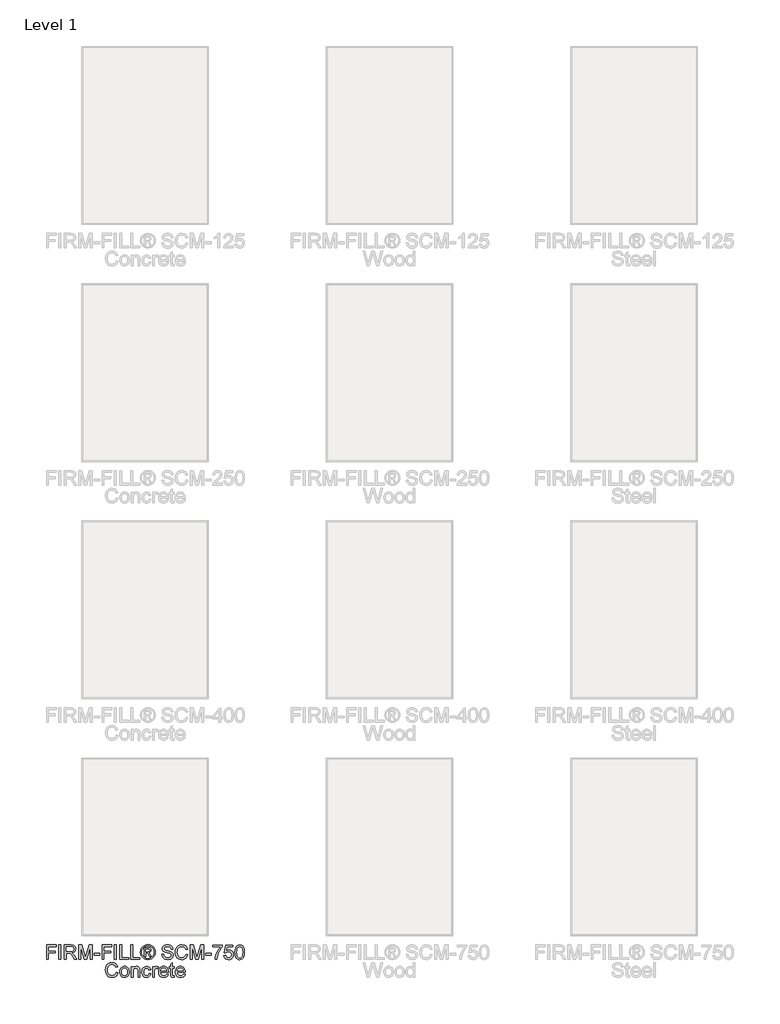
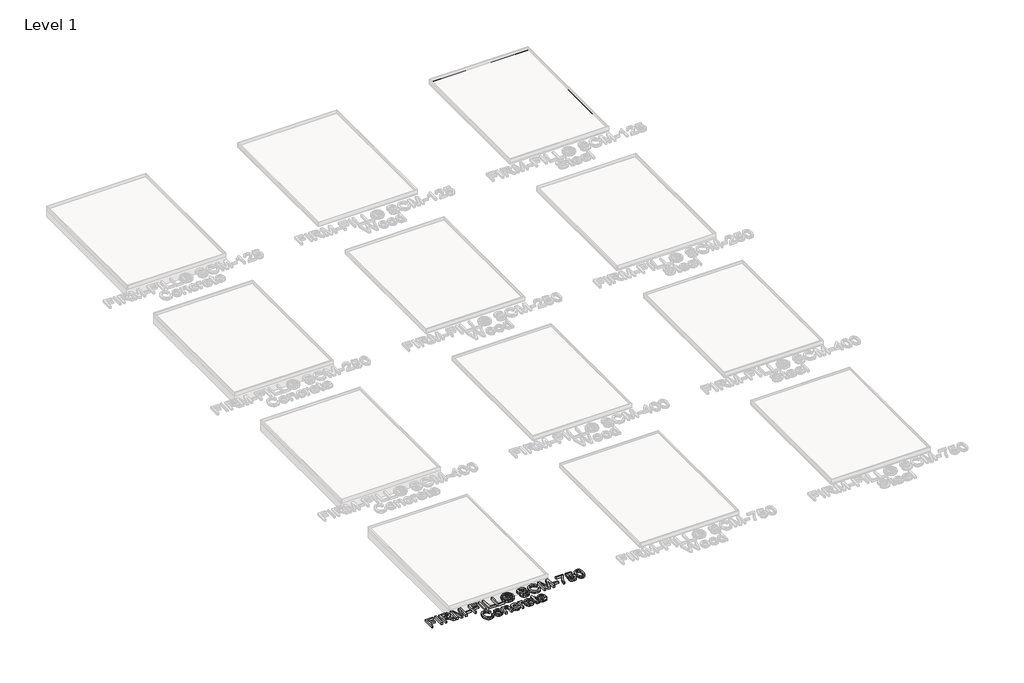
# One storey, part 3 of 10: 1 proxy, 1 slab.
"""IFC4 building model written with IfcOpenShell, lengths in millimetres."""

from ifc_helpers import new_model, si_unit, frame, origin, origin_with_axes, place, context, project, spatial, polyline, outline, extrude, element, save

model = new_model("IFC4")

# Units and contexts
model_context = context("Model", 3, world=origin())
ifc_project = project(units=[si_unit("LENGTHUNIT", "METRE", prefix="MILLI")], contexts=[model_context])

# Site, building, storey
site = spatial("IfcSite", under=ifc_project)
building = spatial("IfcBuilding", under=site)
storey = spatial("IfcBuildingStorey", under=building, Name="Level 1", Elevation=0.0)

# Proxy
placement = place(None, origin())
element("IfcBuildingElementProxy", 1, Name="600mm Arial", ObjectType="600mm Arial", at=placement, inside=storey, context=model_context, shape_type="SweptSolid", body=[
    extrude(outline(polyline([(-5392.4048462, -19301.1364307), (-5392.4048462, -19001.0256615), (-5190.7679231, -19001.0256615), (-5190.7679231, -19038.5395076), (-5354.891, -19038.5395076), (-5354.891, -19127.6348922), (-5214.2140769, -19127.6348922), (-5214.2140769, -19165.1487384), (-5354.891, -19165.1487384), (-5354.891, -19301.1364307), (-5392.4048462, -19301.1364307)])), origin_with_axes(), (0.0, 0.0, 1.0), 50.8),
    extrude(outline(polyline([(-5134.4971539, -19301.1364307), (-5134.4971539, -19001.0256615), (-5096.9833077, -19001.0256615), (-5096.9833077, -19301.1364307), (-5134.4971539, -19301.1364307)])), origin_with_axes(), (0.0, 0.0, 1.0), 50.8),
    extrude(outline(polyline([(-5021.9556154, -19301.1364307), (-5021.9556154, -19001.0256615), (-4892.6354231, -19001.0256615), (-4857.8783318, -19003.049724), (-4832.5912885, -19009.1219115), (-4814.109125, -19020.3321038), (-4799.7666731, -19037.7701807), (-4790.562226, -19059.3937624), (-4787.4940769, -19083.1604692), (-4792.5771298, -19112.7246038), (-4807.8262885, -19137.2331615), (-4819.3776406, -19147.2206735), (-4833.6994856, -19155.2024403), (-4870.6546539, -19165.1487384), (-4849.3333077, -19181.1946999), (-4818.9265769, -19219.8075846), (-4768.8836923, -19301.1364307), (-4812.4788846, -19301.1364307), (-4851.5313846, -19238.9308538), (-4879.7400385, -19197.7535461), (-4899.5593654, -19178.3005653), (-4917.4004231, -19171.1568153), (-4939.1613846, -19169.8379692), (-4984.4417693, -19169.8379692), (-4984.4417693, -19301.1364307), (-5021.9556154, -19301.1364307)]), holes=[polyline([(-4984.4417693, -19132.324123), (-4900.4752308, -19132.324123), (-4876.3604952, -19130.9961182), (-4857.6493654, -19127.0121038), (-4843.5633558, -19120.1064788), (-4833.3239808, -19110.0136422), (-4827.0869375, -19097.8051567), (-4825.0079231, -19084.5525846), (-4828.9736202, -19066.2535942), (-4840.8707116, -19051.5081615), (-4861.3403029, -19041.7816711), (-4891.0235, -19038.5395076), (-4984.4417693, -19038.5395076), (-4984.4417693, -19132.324123)])]), origin_with_axes(), (0.0, 0.0, 1.0), 50.8),
    extrude(outline(polyline([(-4721.8448462, -19301.1364307), (-4721.8448462, -19001.0256615), (-4657.2946539, -19001.0256615), (-4595.8950385, -19212.5539307), (-4583.5125385, -19256.7352769), (-4570.1042693, -19208.8904692), (-4509.7304231, -19001.0256615), (-4445.1802308, -19001.0256615), (-4445.1802308, -19301.1364307), (-4482.6940769, -19301.1364307), (-4482.6940769, -19038.5395076), (-4558.0881154, -19301.1364307), (-4608.9369616, -19301.1364307), (-4684.331, -19038.5395076), (-4684.331, -19301.1364307), (-4721.8448462, -19301.1364307)])), origin_with_axes(), (0.0, 0.0, 1.0), 50.8),
    extrude(outline(polyline([(-4402.9771539, -19212.0410461), (-4402.9771539, -19174.5271999), (-4285.7463846, -19174.5271999), (-4285.7463846, -19212.0410461), (-4402.9771539, -19212.0410461)])), origin_with_axes(), (0.0, 0.0, 1.0), 50.8),
    extrude(outline(polyline([(-4238.8540769, -19301.1364307), (-4238.8540769, -19001.0256615), (-4037.2171539, -19001.0256615), (-4037.2171539, -19038.5395076), (-4201.3402308, -19038.5395076), (-4201.3402308, -19127.6348922), (-4060.6633077, -19127.6348922), (-4060.6633077, -19165.1487384), (-4201.3402308, -19165.1487384), (-4201.3402308, -19301.1364307), (-4238.8540769, -19301.1364307)])), origin_with_axes(), (0.0, 0.0, 1.0), 50.8),
    extrude(outline(polyline([(-3980.9463846, -19301.1364307), (-3980.9463846, -19001.0256615), (-3943.4325385, -19001.0256615), (-3943.4325385, -19301.1364307), (-3980.9463846, -19301.1364307)])), origin_with_axes(), (0.0, 0.0, 1.0), 50.8),
    extrude(outline(polyline([(-3868.4048462, -19301.1364307), (-3868.4048462, -19001.0256615), (-3830.891, -19001.0256615), (-3830.891, -19263.6225846), (-3680.8356154, -19263.6225846), (-3680.8356154, -19301.1364307), (-3868.4048462, -19301.1364307)])), origin_with_axes(), (0.0, 0.0, 1.0), 50.8),
    extrude(outline(polyline([(-3638.6325385, -19301.1364307), (-3638.6325385, -19001.0256615), (-3601.1186923, -19001.0256615), (-3601.1186923, -19263.6225846), (-3451.0633077, -19263.6225846), (-3451.0633077, -19301.1364307), (-3638.6325385, -19301.1364307)])), origin_with_axes(), (0.0, 0.0, 1.0), 50.8),
    extrude(outline(polyline([(-3357.2786923, -19244.8656615), (-3357.2786923, -19057.2964307), (-3296.6850385, -19057.2964307), (-3269.9051346, -19058.5878009), (-3251.6977308, -19062.4619115), (-3239.1961683, -19069.5507096), (-3229.5337885, -19080.4861422), (-3223.3516971, -19093.7570317), (-3221.291, -19107.8521999), (-3224.8445577, -19126.9754692), (-3235.5052308, -19143.4610461), (-3252.0274423, -19155.2940269), (-3273.1656154, -19160.4595076), (-3258.5117693, -19170.424123), (-3232.9408077, -19207.8646999), (-3211.9125385, -19244.8656615), (-3243.5648462, -19244.8656615), (-3260.0504231, -19215.1183538), (-3287.6729231, -19172.0360461), (-3297.7657596, -19166.614123), (-3311.6319616, -19165.1487384), (-3329.1433077, -19165.1487384), (-3329.1433077, -19244.8656615), (-3357.2786923, -19244.8656615)]), holes=[polyline([(-3329.1433077, -19137.0133538), (-3293.5344616, -19137.0133538), (-3272.0848943, -19135.2274163), (-3258.7315769, -19129.8696038), (-3251.7526827, -19121.5627047), (-3249.4263846, -19110.9295076), (-3253.8958077, -19097.3014307), (-3266.3149423, -19088.3625846), (-3295.8058077, -19085.4318153), (-3329.1433077, -19085.4318153), (-3329.1433077, -19137.0133538)])]), origin_with_axes(), (0.0, 0.0, 1.0), 50.8),
    extrude(outline(polyline([(-3286.8669616, -18996.3364307), (-3248.3456635, -19001.3370557), (-3210.7402308, -19016.3389307), (-3177.7049664, -19040.645998), (-3152.8941731, -19073.5621999), (-3137.3702548, -19111.5706134), (-3132.1956154, -19151.1543153), (-3137.2969856, -19190.3899884), (-3152.6010962, -19228.0870076), (-3177.1096539, -19260.8841471), (-3209.8243654, -19285.4201807), (-3247.4939087, -19300.7242913), (-3286.8669616, -19305.8256615), (-3326.1850625, -19300.7242913), (-3363.8362885, -19285.4201807), (-3396.578476, -19260.8841471), (-3421.1694616, -19228.0870076), (-3436.556, -19190.3899884), (-3441.6848462, -19151.1543153), (-3436.4827308, -19111.5706134), (-3420.8763846, -19073.5621999), (-3395.9831635, -19040.645998), (-3362.9204231, -19016.3389307), (-3325.3333077, -19001.3370557), (-3286.8669616, -18996.3364307)]), holes=[polyline([(-3286.8669616, -19024.4718153), (-3318.3910481, -19028.5657336), (-3349.0725385, -19040.8474884), (-3376.0447741, -19060.7492432), (-3396.4410962, -19087.7031615), (-3409.2723702, -19118.8059499), (-3413.5494616, -19151.1543153), (-3409.3547981, -19183.2920317), (-3396.7708077, -19214.0559499), (-3376.6400866, -19240.8083778), (-3349.8052308, -19260.911623), (-3318.9772019, -19273.4956134), (-3286.8669616, -19277.6902769), (-3254.7109279, -19273.4956134), (-3223.8920577, -19260.911623), (-3197.1029952, -19240.8083778), (-3177.0363846, -19214.0559499), (-3164.5073462, -19183.2920317), (-3160.331, -19151.1543153), (-3164.5806154, -19118.8059499), (-3177.3294616, -19087.7031615), (-3197.6708318, -19060.7492432), (-3224.6980193, -19040.8474884), (-3255.4253029, -19028.5657336), (-3286.8669616, -19024.4718153)])]), origin_with_axes(), (0.0, 0.0, 1.0), 50.8),
    extrude(outline(polyline([(-2996.2079231, -19197.9733538), (-2958.6940769, -19197.9733538), (-2954.3895096, -19218.790974), (-2946.6046539, -19235.5238346), (-2934.4602789, -19248.8038826), (-2917.0771539, -19259.2630653), (-2895.8290769, -19266.0496278), (-2872.0898462, -19268.3118153), (-2851.1897981, -19266.5991471), (-2832.8908077, -19261.4611422), (-2818.0629471, -19253.3282576), (-2807.5762885, -19242.6309499), (-2801.3392452, -19230.3491951), (-2799.2602308, -19217.4629692), (-2800.8172019, -19204.9064547), (-2805.4881154, -19194.0534499), (-2814.9764808, -19184.7940509), (-2830.9858077, -19177.0183538), (-2885.6080193, -19162.6942192), (-2921.4641491, -19153.2150124), (-2944.4065769, -19144.1937384), (-2963.0810721, -19131.5731134), (-2976.3153269, -19116.2781615), (-2984.2009279, -19098.6385942), (-2986.8294616, -19078.984123), (-2983.5781394, -19057.0125124), (-2973.8241731, -19036.5246038), (-2957.8240048, -19019.1597961), (-2935.8340769, -19006.5574884), (-2909.4388366, -18998.8916951), (-2880.2227308, -18996.3364307), (-2848.5704231, -18999.0107576), (-2820.8746539, -19007.0337384), (-2798.1245577, -19020.2405172), (-2781.3092693, -19038.4662384), (-2770.6669135, -19060.5752288), (-2766.4356154, -19085.4318153), (-2803.9494616, -19085.4318153), (-2810.8367693, -19063.0480653), (-2825.1975385, -19046.8921999), (-2847.6362404, -19037.1107576), (-2878.7573462, -19033.8502769), (-2910.6111443, -19037.074123), (-2932.4636923, -19046.7456615), (-2945.1026346, -19060.9782096), (-2949.3156154, -19077.8850846), (-2946.3298943, -19092.3008057), (-2937.3727308, -19103.8956615), (-2916.1979231, -19114.2632576), (-2876.1196539, -19124.8506615), (-2834.7591731, -19134.9068634), (-2809.7377308, -19143.6808538), (-2788.3522741, -19157.2906134), (-2773.4328269, -19174.0875846), (-2764.6679952, -19193.8885942), (-2761.7463846, -19216.5104692), (-2765.1076106, -19239.6360701), (-2775.1912885, -19261.387873), (-2791.5852789, -19280.1081615), (-2813.8774423, -19294.1392192), (-2840.6848221, -19302.9040509), (-2870.6244616, -19305.8256615), (-2907.3781394, -19302.6750846), (-2937.6291731, -19293.2233538), (-2961.7255914, -19277.4338346), (-2980.0154231, -19255.2698922), (-2991.7568173, -19228.2701807), (-2996.2079231, -19197.9733538)])), origin_with_axes(), (0.0, 0.0, 1.0), 50.8),
    extrude(outline(polyline([(-2494.4602308, -19194.4564307), (-2456.9463846, -19204.1279692), (-2464.3694736, -19227.4573502), (-2474.2562404, -19247.842224), (-2486.6066851, -19265.2825906), (-2501.4208077, -19279.7784499), (-2518.3643173, -19291.174105), (-2537.1029231, -19299.3138586), (-2557.636625, -19304.1977108), (-2579.9654231, -19305.8256615), (-2623.4781875, -19300.8983057), (-2658.0337885, -19286.1162384), (-2684.5206154, -19261.9923442), (-2703.8270577, -19229.0395076), (-2715.6142452, -19190.2984019), (-2719.5433077, -19148.8096999), (-2715.1013606, -19105.0496519), (-2701.7755193, -19067.2610461), (-2680.2618414, -19036.6436663), (-2651.2563846, -19014.3972961), (-2616.8564808, -19000.8516471), (-2579.1594616, -18996.3364307), (-2538.0279471, -19002.1796519), (-2520.1342272, -19009.4836783), (-2504.0218654, -19019.7093153), (-2489.9564628, -19032.5863826), (-2478.2036202, -19047.8446999), (-2461.6356154, -19085.5050846), (-2499.1494616, -19094.4439307), (-2512.15475, -19067.0870317), (-2529.9225385, -19048.3209499), (-2552.6726346, -19037.4679451), (-2580.6248462, -19033.8502769), (-2612.8449904, -19037.8617672), (-2639.3135, -19049.8962384), (-2659.3984279, -19068.6897961), (-2672.4678269, -19092.9785461), (-2679.6390529, -19120.4361903), (-2682.0294616, -19148.7364307), (-2679.1994375, -19183.3927769), (-2670.7093654, -19213.3598922), (-2656.2386923, -19237.4929451), (-2635.4668654, -19254.6471038), (-2610.5644856, -19264.8956374), (-2583.7021539, -19268.3118153), (-2552.3887164, -19263.6592192), (-2526.2957116, -19249.7014307), (-2506.5954471, -19226.5849884), (-2494.4602308, -19194.4564307)])), origin_with_axes(), (0.0, 0.0, 1.0), 50.8),
    extrude(outline(polyline([(-2405.3648462, -19301.1364307), (-2405.3648462, -19001.0256615), (-2340.8146539, -19001.0256615), (-2279.4150385, -19212.5539307), (-2267.0325385, -19256.7352769), (-2253.6242693, -19208.8904692), (-2193.2504231, -19001.0256615), (-2128.7002308, -19001.0256615), (-2128.7002308, -19301.1364307), (-2166.2140769, -19301.1364307), (-2166.2140769, -19038.5395076), (-2241.6081154, -19301.1364307), (-2292.4569616, -19301.1364307), (-2367.851, -19038.5395076), (-2367.851, -19301.1364307), (-2405.3648462, -19301.1364307)])), origin_with_axes(), (0.0, 0.0, 1.0), 50.8),
    extrude(outline(polyline([(-2086.4971539, -19212.0410461), (-2086.4971539, -19174.5271999), (-1969.2663846, -19174.5271999), (-1969.2663846, -19212.0410461), (-2086.4971539, -19212.0410461)])), origin_with_axes(), (0.0, 0.0, 1.0), 50.8),
    extrude(outline(polyline([(-1936.4417693, -19043.2287384), (-1936.4417693, -19005.7148922), (-1739.4940769, -19005.7148922), (-1739.4940769, -19036.0483538), (-1767.565351, -19071.5747721), (-1795.3618654, -19116.7544115), (-1819.8795818, -19167.4658778), (-1838.1144616, -19219.5877769), (-1847.0533077, -19258.5853249), (-1852.0356154, -19301.1364307), (-1889.5494616, -19301.1364307), (-1885.4921779, -19262.4685942), (-1874.6391731, -19216.5104692), (-1857.2835241, -19167.7955894), (-1833.7183077, -19120.8574884), (-1806.2057116, -19078.4254451), (-1777.0079231, -19043.2287384), (-1936.4417693, -19043.2287384)])), origin_with_axes(), (0.0, 0.0, 1.0), 50.8),
    extrude(outline(polyline([(-1706.6694616, -19221.4195076), (-1669.1556154, -19216.7302769), (-1662.2683077, -19239.2514067), (-1650.2521539, -19255.3797961), (-1633.1621058, -19265.0788105), (-1611.0531154, -19268.3118153), (-1584.1633077, -19263.8149163), (-1564.0142693, -19250.3242192), (-1551.4302789, -19229.3966951), (-1547.2356154, -19202.5893153), (-1551.1646779, -19177.3480653), (-1562.9518654, -19158.041623), (-1582.6887644, -19145.7873442), (-1610.4669616, -19141.7025846), (-1628.6652068, -19143.3328249), (-1643.4014808, -19148.2235461), (-1664.4663846, -19165.1487384), (-1701.9802308, -19160.4595076), (-1669.1556154, -19005.7148922), (-1523.7894616, -19005.7148922), (-1523.7894616, -19043.2287384), (-1638.8221539, -19043.2287384), (-1654.8681154, -19125.8764307), (-1628.0698943, -19109.6106615), (-1599.9894616, -19104.1887384), (-1581.7202368, -19105.8693514), (-1564.9392933, -19110.9111903), (-1549.646631, -19119.3142552), (-1535.84225, -19131.0785461), (-1524.4145397, -19145.4851086), (-1516.2518894, -19161.8149884), (-1511.3542993, -19180.0681855), (-1509.7217693, -19200.2446999), (-1515.601625, -19237.7585461), (-1522.9514447, -19254.482248), (-1533.2411923, -19269.8504692), (-1548.8292212, -19285.5896158), (-1567.0183077, -19296.8318634), (-1587.8084519, -19303.577212), (-1611.1996539, -19305.8256615), (-1648.0449183, -19300.0465509), (-1663.6581334, -19292.8226627), (-1677.3984039, -19282.7092192), (-1688.8306935, -19270.2099463), (-1697.5199664, -19255.8285701), (-1706.6694616, -19221.4195076)])), origin_with_axes(), (0.0, 0.0, 1.0), 50.8),
    extrude(outline(polyline([(-1476.8971539, -19153.4989307), (-1474.1403991, -19105.4617913), (-1465.8701346, -19067.1511422), (-1452.1687885, -19037.9808297), (-1433.1187885, -19017.3646999), (-1408.5827548, -19005.1104211), (-1378.4233077, -19001.0256615), (-1355.3068654, -19003.4435461), (-1334.6083077, -19010.6971999), (-1317.2984519, -19022.5027047), (-1304.3481154, -19038.5761422), (-1294.5666731, -19058.7801326), (-1286.7635, -19082.9772961), (-1281.6529712, -19113.7045797), (-1279.9494616, -19153.4989307), (-1282.6787404, -19201.2613105), (-1290.8665769, -19239.480373), (-1304.4854952, -19268.6781615), (-1323.5080193, -19289.3767192), (-1348.0990048, -19301.7134259), (-1378.4233077, -19305.8256615), (-1399.0852308, -19304.039724), (-1417.4025385, -19298.6819115), (-1433.3752308, -19289.752224), (-1447.0033077, -19277.2506615), (-1460.0818654, -19254.6516831), (-1469.4236923, -19226.4934019), (-1475.0287885, -19192.7758177), (-1476.8971539, -19153.4989307)]), holes=[polyline([(-1439.3833077, -19153.4256615), (-1434.9871539, -19212.4348682), (-1429.4919616, -19232.6182516), (-1421.7986923, -19246.5874884), (-1402.1625385, -19262.8807336), (-1378.4233077, -19268.3118153), (-1354.6840769, -19262.8624163), (-1335.0479231, -19246.5142192), (-1327.3546539, -19232.5220858), (-1321.8594616, -19212.3432817), (-1317.4633077, -19153.4256615), (-1321.7129231, -19095.7444596), (-1327.0249423, -19075.6274764), (-1334.4617693, -19061.3262384), (-1354.0612885, -19044.2361903), (-1378.8629231, -19038.5395076), (-1402.3457116, -19043.5584499), (-1421.2125385, -19058.6152769), (-1429.16225, -19074.1849884), (-1434.8406154, -19095.176623), (-1439.3833077, -19153.4256615)])]), origin_with_axes(), (0.0, 0.0, 1.0), 50.8),
    extrude(outline(polyline([(-3945.7771539, -19564.9056615), (-3908.2633077, -19574.5771999), (-3915.6863967, -19597.906581), (-3925.5731635, -19618.2914547), (-3937.9236082, -19635.7318213), (-3952.7377308, -19650.2276807), (-3969.6812404, -19661.6233358), (-3988.4198462, -19669.7630894), (-4008.9535481, -19674.6469415), (-4031.2823462, -19676.2748922), (-4074.7951106, -19671.3475365), (-4109.3507116, -19656.5654692), (-4135.8375385, -19632.4415749), (-4155.1439808, -19599.4887384), (-4166.9311683, -19560.7476326), (-4170.8602308, -19519.2589307), (-4166.4182837, -19475.4988826), (-4153.0924423, -19437.7102769), (-4131.5787644, -19407.0928971), (-4102.5733077, -19384.8465269), (-4068.1734039, -19371.3008778), (-4030.4763846, -19366.7856615), (-3989.3448702, -19372.6288826), (-3971.4511503, -19379.9329091), (-3955.3387885, -19390.1585461), (-3941.2733858, -19403.0356134), (-3929.5205433, -19418.2939307), (-3912.9525385, -19455.9543153), (-3950.4663846, -19464.8931615), (-3963.4716731, -19437.5362624), (-3981.2394616, -19418.7701807), (-4003.9895577, -19407.9171759), (-4031.9417693, -19404.2995076), (-4064.1619135, -19408.310998), (-4090.6304231, -19420.3454692), (-4110.715351, -19439.1390269), (-4123.78475, -19463.4277769), (-4130.955976, -19490.8854211), (-4133.3463846, -19519.1856615), (-4130.5163606, -19553.8420076), (-4122.0262885, -19583.809123), (-4107.5556154, -19607.9421759), (-4086.7837885, -19625.0963346), (-4061.8814087, -19635.3448682), (-4035.0190769, -19638.7610461), (-4003.7056394, -19634.1084499), (-3977.6126346, -19620.1506615), (-3957.9123702, -19597.0342192), (-3945.7771539, -19564.9056615)])), origin_with_axes(), (0.0, 0.0, 1.0), 50.8),
    extrude(outline(polyline([(-3870.7494616, -19561.3887384), (-3868.7208197, -19532.8457937), (-3862.6348943, -19508.2502288), (-3852.4916851, -19487.6020437), (-3838.2911923, -19470.9012384), (-3823.9945337, -19460.2268273), (-3808.2141731, -19452.602248), (-3790.9501106, -19448.0275004), (-3772.2023462, -19446.5025846), (-3751.5060781, -19448.3595016), (-3732.7926587, -19453.9302528), (-3716.0620878, -19463.2148382), (-3701.3143654, -19476.2132576), (-3689.2776046, -19492.4858959), (-3680.6799183, -19511.5931374), (-3675.5213065, -19533.5349824), (-3673.8017693, -19558.3114307), (-3676.8424423, -19596.2099403), (-3685.9644616, -19625.0596999), (-3700.902226, -19646.6649644), (-3721.3901346, -19662.8299884), (-3745.7246779, -19672.9136663), (-3772.2023462, -19676.2748922), (-3793.2008498, -19674.4248442), (-3812.0882837, -19668.8746999), (-3828.8646479, -19659.6244596), (-3843.5299423, -19646.674123), (-3855.438482, -19630.243498), (-3863.9445818, -19610.5523922), (-3869.0482416, -19587.6008057), (-3870.7494616, -19561.3887384)]), holes=[polyline([(-3833.2356154, -19561.3154692), (-3828.8944135, -19595.266599), (-3815.8708077, -19619.4546038), (-3796.2712885, -19633.9344355), (-3772.2023462, -19638.7610461), (-3748.2433077, -19633.9069596), (-3728.6804231, -19619.3446999), (-3715.6568173, -19594.8361422), (-3711.3156154, -19560.1431615), (-3715.6842933, -19527.1811663), (-3728.7903269, -19503.322873), (-3748.3806875, -19488.8430413), (-3772.2023462, -19484.0164307), (-3796.2712885, -19488.824724), (-3815.8708077, -19503.2496038), (-3828.8944135, -19527.3826567), (-3833.2356154, -19561.3154692)])]), origin_with_axes(), (0.0, 0.0, 1.0), 50.8),
    extrude(outline(polyline([(-3631.5986923, -19671.5856615), (-3631.5986923, -19451.1918153), (-3594.0848462, -19451.1918153), (-3594.0848462, -19481.9648922), (-3581.0520818, -19466.4501326), (-3565.3999423, -19455.3681615), (-3547.1284279, -19448.7189788), (-3526.2375385, -19446.5025846), (-3507.7462164, -19448.2885221), (-3490.8118654, -19453.6463346), (-3476.6892212, -19461.9074403), (-3466.6330193, -19472.4032576), (-3455.3861923, -19499.989123), (-3453.4079231, -19536.2573922), (-3453.4079231, -19671.5856615), (-3490.9217693, -19671.5856615), (-3490.9217693, -19541.3129692), (-3495.2446539, -19508.1220076), (-3501.2252548, -19498.2398201), (-3510.5212885, -19490.5740269), (-3522.4366971, -19485.6558297), (-3536.2754231, -19484.0164307), (-3558.2470337, -19487.6982096), (-3576.9764808, -19498.7435461), (-3584.4613906, -19507.7602408), (-3589.8077548, -19520.0832096), (-3594.0848462, -19554.6479692), (-3594.0848462, -19671.5856615), (-3631.5986923, -19671.5856615)])), origin_with_axes(), (0.0, 0.0, 1.0), 50.8),
    extrude(outline(polyline([(-3261.1494616, -19591.8687384), (-3223.6356154, -19596.5579692), (-3234.0947981, -19629.9229451), (-3253.7492693, -19655.1367192), (-3280.7489808, -19670.990349), (-3313.2438846, -19676.2748922), (-3334.2836022, -19674.4317132), (-3353.1481394, -19668.9021759), (-3369.8374964, -19659.6862805), (-3384.3516731, -19646.7840269), (-3396.0999363, -19630.4381194), (-3404.4915529, -19610.8912624), (-3409.5265229, -19588.143456), (-3411.2048462, -19562.1946999), (-3408.3381875, -19528.8114067), (-3399.7382116, -19499.8792192), (-3385.2675385, -19476.5154932), (-3364.7887885, -19459.8375846), (-3340.2893894, -19449.8363346), (-3313.7567693, -19446.5025846), (-3282.0586683, -19451.0819115), (-3256.7166731, -19464.8198922), (-3238.5367452, -19486.9838346), (-3228.3248462, -19516.8410461), (-3265.8386923, -19521.5302769), (-3272.6435721, -19505.1637624), (-3283.2401346, -19493.4315269), (-3297.042226, -19486.3702047), (-3313.4636923, -19484.0164307), (-3337.7066491, -19488.6507096), (-3356.9489808, -19502.5535461), (-3369.5054952, -19526.4759499), (-3373.691, -19561.1689307), (-3369.5970818, -19596.3290028), (-3357.3153269, -19620.3338346), (-3338.4210241, -19634.1542432), (-3314.4894616, -19638.7610461), (-3295.0639568, -19635.8852288), (-3279.1370577, -19627.2577769), (-3267.5513606, -19612.6588826), (-3261.1494616, -19591.8687384)])), origin_with_axes(), (0.0, 0.0, 1.0), 50.8),
    extrude(outline(polyline([(-3190.811, -19671.5856615), (-3190.811, -19451.1918153), (-3157.9863846, -19451.1918153), (-3157.9863846, -19483.796623), (-3145.8603269, -19464.8931615), (-3134.6867693, -19453.7562384), (-3123.4765769, -19448.315998), (-3111.2406154, -19446.5025846), (-3092.5569616, -19449.3967192), (-3073.5802308, -19458.079123), (-3086.1092693, -19491.7096999), (-3099.2977308, -19485.939748), (-3112.4861923, -19484.0164307), (-3123.687226, -19485.8664788), (-3133.6976346, -19491.416623), (-3141.784726, -19500.2455653), (-3147.2158077, -19511.9320076), (-3151.7768173, -19532.8870076), (-3153.2971539, -19555.7470076), (-3153.2971539, -19671.5856615), (-3190.811, -19671.5856615)])), origin_with_axes(), (0.0, 0.0, 1.0), 50.8),
    extrude(outline(polyline([(-2895.8290769, -19605.9364307), (-2859.0479231, -19610.6256615), (-2872.3004952, -19638.339748), (-2893.4478269, -19659.056623), (-2922.0136683, -19671.9703249), (-2957.5217693, -19676.2748922), (-2980.798488, -19674.4179752), (-3001.5382596, -19668.847224), (-3019.7410842, -19659.5626386), (-3035.4069616, -19646.5642192), (-3048.0046899, -19630.2137324), (-3057.0030673, -19610.8729451), (-3062.4020938, -19588.5418574), (-3064.2017693, -19563.2204692), (-3062.3837765, -19537.0404572), (-3056.9297981, -19513.9652288), (-3047.8398342, -19493.9947841), (-3035.1138846, -19477.129123), (-3019.4892212, -19463.7300124), (-3001.7031154, -19454.1592192), (-2981.7555673, -19448.4167432), (-2959.6465769, -19446.5025846), (-2938.2496719, -19448.4121639), (-2918.899726, -19454.1409019), (-2901.5967392, -19463.6887985), (-2886.3407116, -19477.0558538), (-2873.887232, -19493.8848802), (-2864.9918894, -19513.8186903), (-2859.6546839, -19536.8572841), (-2857.8756154, -19563.0006615), (-2858.0954231, -19573.1118153), (-3026.6879231, -19573.1118153), (-3020.1944375, -19601.192248), (-3005.1101346, -19621.8358538), (-2983.3400144, -19634.529748), (-2956.7890769, -19638.7610461), (-2936.8232116, -19636.8010942), (-2920.0079231, -19630.9212384), (-2906.3432116, -19620.7551326), (-2895.8290769, -19605.9364307)]), holes=[polyline([(-3026.6879231, -19535.5979692), (-2895.3894616, -19535.5979692), (-2900.4633558, -19515.7786422), (-2910.4096539, -19501.6010461), (-2932.2805193, -19488.4125846), (-2959.7931154, -19484.0164307), (-2985.0801587, -19487.5241951), (-3005.9893654, -19498.0474884), (-3020.5241491, -19514.4506374), (-3026.6879231, -19535.5979692)])]), origin_with_axes(), (0.0, 0.0, 1.0), 50.8),
    extrude(outline(polyline([(-2740.6448462, -19640.2996999), (-2735.9556154, -19672.6846999), (-2764.0177308, -19676.2748922), (-2782.0236443, -19674.7179211), (-2795.4502308, -19670.0470076), (-2804.9385962, -19662.8483057), (-2811.1298462, -19653.7079692), (-2814.5368654, -19638.0100365), (-2815.6725385, -19611.1385461), (-2815.6725385, -19488.7056615), (-2843.8079231, -19488.7056615), (-2843.8079231, -19451.1918153), (-2815.6725385, -19451.1918153), (-2815.6725385, -19397.6320076), (-2778.1586923, -19375.5779692), (-2778.1586923, -19451.1918153), (-2740.6448462, -19451.1918153), (-2740.6448462, -19488.7056615), (-2778.1586923, -19488.7056615), (-2778.1586923, -19610.0395076), (-2776.1804231, -19629.3825846), (-2769.7693654, -19636.2332576), (-2756.9838846, -19638.7610461), (-2740.6448462, -19640.2996999)])), origin_with_axes(), (0.0, 0.0, 1.0), 50.8),
    extrude(outline(polyline([(-2548.826, -19605.9364307), (-2512.0448462, -19610.6256615), (-2525.2974183, -19638.339748), (-2546.44475, -19659.056623), (-2575.0105914, -19671.9703249), (-2610.5186923, -19676.2748922), (-2633.7954111, -19674.4179752), (-2654.5351827, -19668.847224), (-2672.7380072, -19659.5626386), (-2688.4038846, -19646.5642192), (-2701.001613, -19630.2137324), (-2709.9999904, -19610.8729451), (-2715.3990169, -19588.5418574), (-2717.1986923, -19563.2204692), (-2715.3806995, -19537.0404572), (-2709.9267212, -19513.9652288), (-2700.8367572, -19493.9947841), (-2688.1108077, -19477.129123), (-2672.4861443, -19463.7300124), (-2654.7000385, -19454.1592192), (-2634.7524904, -19448.4167432), (-2612.6435, -19446.5025846), (-2591.246595, -19448.4121639), (-2571.8966491, -19454.1409019), (-2554.5936623, -19463.6887985), (-2539.3376346, -19477.0558538), (-2526.8841551, -19493.8848802), (-2517.9888125, -19513.8186903), (-2512.651607, -19536.8572841), (-2510.8725385, -19563.0006615), (-2511.0923462, -19573.1118153), (-2679.6848462, -19573.1118153), (-2673.1913606, -19601.192248), (-2658.1070577, -19621.8358538), (-2636.3369375, -19634.529748), (-2609.786, -19638.7610461), (-2589.8201346, -19636.8010942), (-2573.0048462, -19630.9212384), (-2559.3401346, -19620.7551326), (-2548.826, -19605.9364307)]), holes=[polyline([(-2679.6848462, -19535.5979692), (-2548.3863846, -19535.5979692), (-2553.4602789, -19515.7786422), (-2563.4065769, -19501.6010461), (-2585.2774423, -19488.4125846), (-2612.7900385, -19484.0164307), (-2638.0770818, -19487.5241951), (-2658.9862885, -19498.0474884), (-2673.5210721, -19514.4506374), (-2679.6848462, -19535.5979692)])]), origin_with_axes(), (0.0, 0.0, 1.0), 50.8),
])

# Slab
element("IfcSlab", 2, ObjectType="PERIMETER ISOLATION", at=placement, inside=storey, context=model_context, shape_type="SweptSolid", body=[
    extrude(outline(polyline([(5515.8693846, -349.5614307), (8113.0193846, -349.5614307), (8113.0193846, -4013.5114307), (5515.8693846, -4013.5114307), (5515.8693846, -349.5614307)]), holes=[polyline([(5519.0443846, -352.7364307), (5519.0443846, -4010.3364307), (8109.8443846, -4010.3364307), (8109.8443846, -352.7364307), (5519.0443846, -352.7364307)])]), frame((0.0, 0.0, -22.225), z_axis=(0.0, 0.0, 1.0), x_axis=(1.0, 0.0, 0.0)), (0.0, 0.0, 1.0), 22.225),
])

save(model, "model.ifc")
